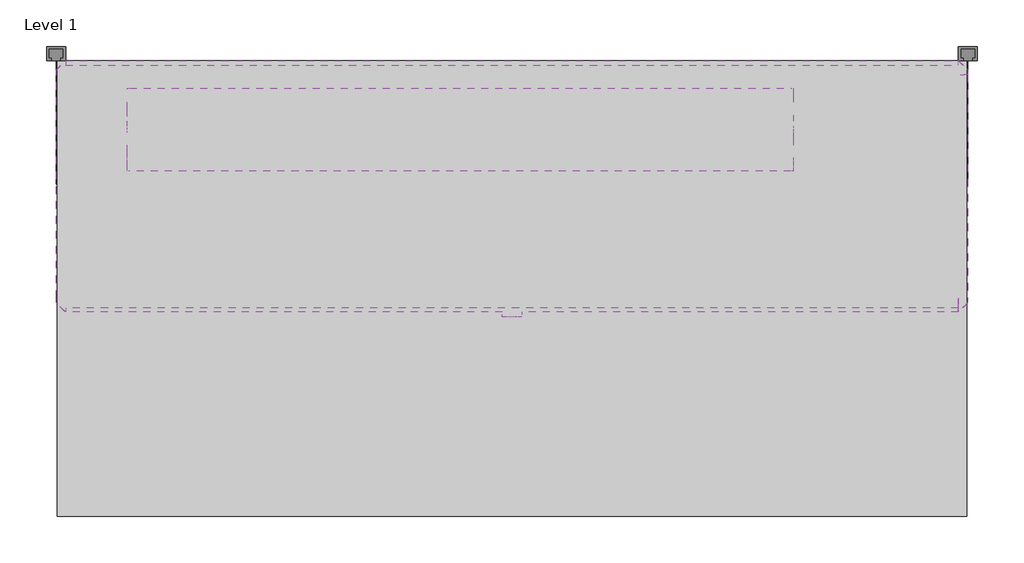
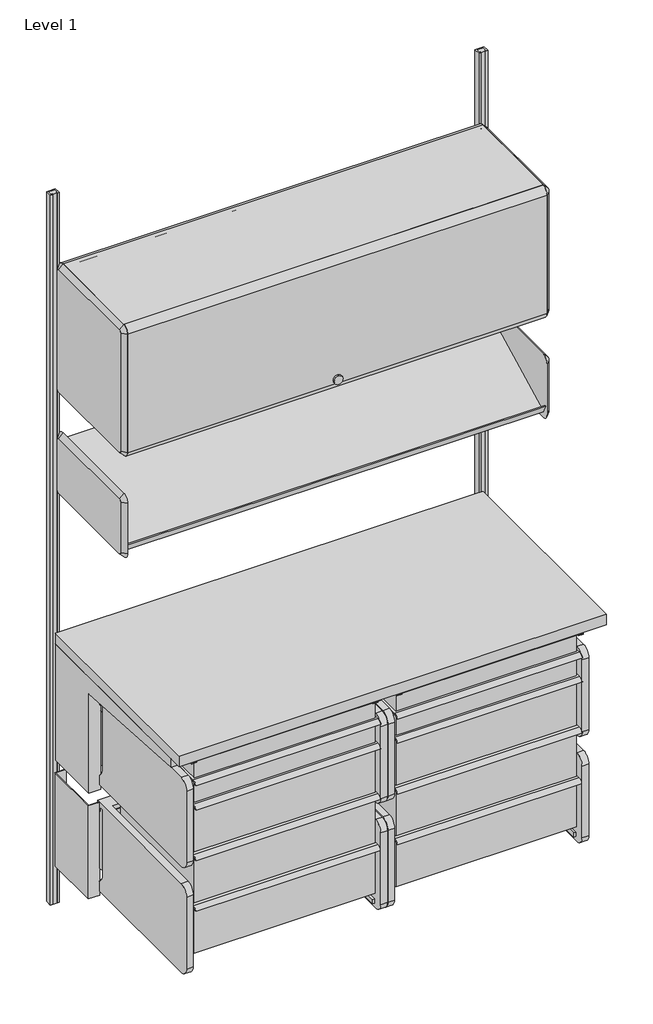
# One storey: 21 furniture elements, 1 light fixture.
"""IFC4 building model written with IfcOpenShell, lengths in millimetres."""

from ifc_helpers import new_model, si_unit, origin, place, context, project, spatial, transform, mapped, element, save
from components import furniture_30ac351e, furniture_de886b3f, furniture_439dfb7c, furniture_33cd207f, furniture_56be9a9d, furniture_c9df3ccb, furniture_0ce6bd9a, furniture_ea425779, a_3_959e08d9, a_3_3943aac6, b_6_f3207868, b_6_2be62e06, b_6_bdab6ed6, light_fixture_d29e1486

model = new_model("IFC4")

# Units and contexts
model_context = context("Model", 3, world=origin())
ifc_project = project(units=[si_unit("LENGTHUNIT", "METRE", prefix="MILLI")], contexts=[model_context])

# Site, building, storey
site = spatial("IfcSite", under=ifc_project)
building = spatial("IfcBuilding", under=site)
storey = spatial("IfcBuildingStorey", under=building, Name="Level 1", Elevation=0.0)

# Furniture
placement = place(None, origin())
furniture_shape = furniture_30ac351e(model_context)
element("IfcFurniture", 1, ObjectType="HermanMiller_CoStruc_CO205_CFrame : 10\"H x 17\"D x 22\"W", at=placement, inside=storey, context=model_context, shape_type="MappedRepresentation", body=[
    mapped(furniture_shape, transform((222.5622951, -255.7213997, 0.0), x_axis=(1.0, 0.0, 0.0), y_axis=(0.0, 1.0, 0.0), z_axis=(0.0, 0.0, 1.0))),
])
element("IfcFurniture", 2, ObjectType="HermanMiller_CoStruc_CO205_CFrame : 10\"H x 17\"D x 22\"W", at=placement, inside=storey, context=model_context, shape_type="MappedRepresentation", body=[
    mapped(furniture_shape, transform((795.6624951, -255.7213997, 0.0), x_axis=(1.0, 0.0, 0.0), y_axis=(0.0, 1.0, 0.0), z_axis=(0.0, 0.0, 1.0))),
])
furniture_2_shape = furniture_de886b3f(model_context)
element("IfcFurniture", 3, ObjectType="HermanMiller_CoStruc_C2141_Heavy-DutyWorkSurface : 24\"D x 48\"W Lam", at=placement, inside=storey, context=model_context, shape_type="MappedRepresentation", body=[
    mapped(furniture_2_shape, transform((304.8, -196.85, 0.0), x_axis=(1.0, 0.0, 0.0), y_axis=(0.0, 1.0, 0.0), z_axis=(0.0, 0.0, 1.0))),
])
furniture_3_shape = furniture_439dfb7c(model_context)
element("IfcFurniture", 4, ObjectType="HermanMiller_ActionOffice_A3220_B-StyleStorageDisplay : Display 13\"D x 48\"W", at=placement, inside=storey, context=model_context, shape_type="MappedRepresentation", body=[
    mapped(furniture_3_shape, transform((733.5420045, -200.025, 0.0), x_axis=(1.0, 0.0, 0.0), y_axis=(0.0, 1.0, 0.0), z_axis=(0.0, 0.0, 1.0))),
])
furniture_4_shape = furniture_33cd207f(model_context)
element("IfcFurniture", 5, ObjectType="HermanMiller_ActionOffice_A3352_B-StyleFlipperDoorUnit : 15 1/2\"H x 13\"D x 48\"W", at=placement, inside=storey, context=model_context, shape_type="MappedRepresentation", body=[
    mapped(furniture_4_shape, transform((609.6, -200.025, 0.0), x_axis=(1.0, 0.0, 0.0), y_axis=(0.0, 1.0, 0.0), z_axis=(0.0, 0.0, 1.0))),
])
furniture_5_shape = furniture_56be9a9d(model_context)
element("IfcFurniture", 6, ObjectType="HermanMiller_CoStruc_CO205_CFrame : 10\"H x 17\"D x 22\"W", at=placement, inside=storey, context=model_context, shape_type="MappedRepresentation", body=[
    mapped(furniture_5_shape, transform((222.5622951, -255.7213997, 0.0), x_axis=(1.0, 0.0, 0.0), y_axis=(0.0, 1.0, 0.0), z_axis=(0.0, 0.0, 1.0))),
])
element("IfcFurniture", 7, ObjectType="HermanMiller_CoStruc_CO205_CFrame : 10\"H x 17\"D x 22\"W", at=placement, inside=storey, context=model_context, shape_type="MappedRepresentation", body=[
    mapped(furniture_5_shape, transform((795.6624951, -255.7213997, 0.0), x_axis=(1.0, 0.0, 0.0), y_axis=(0.0, 1.0, 0.0), z_axis=(0.0, 0.0, 1.0))),
])
furniture_6_shape = furniture_c9df3ccb(model_context)
element("IfcFurniture", 8, ObjectType="HermanMiller_CoStruc_C2192_CFrameSupport : 11\"H x 24\"D x 48\"W", at=placement, inside=storey, context=model_context, shape_type="MappedRepresentation", body=[
    mapped(furniture_6_shape, transform((609.6, 107.15625, 0.0), x_axis=(1.0, 0.0, 0.0), y_axis=(0.0, 1.0, 0.0), z_axis=(0.0, 0.0, 1.0))),
])
furniture_7_shape = furniture_0ce6bd9a(model_context)
element("IfcFurniture", 9, ObjectType="HermanMiller_CoStruc_C2140W_WorkSurfaceSupport_ComponentAdaptor : 14\"H x 24\"D x 48\"W", at=placement, inside=storey, context=model_context, shape_type="MappedRepresentation", body=[
    mapped(furniture_7_shape, transform((609.6, -196.85, 0.0), x_axis=(1.0, 0.0, 0.0), y_axis=(0.0, 1.0, 0.0), z_axis=(0.0, 0.0, 1.0))),
])
furniture_8_shape = furniture_ea425779(model_context)
element("IfcFurniture", 10, ObjectType="HermanMiller_ActionOffice_AO213_WallStrip : 84\"H", at=placement, inside=storey, context=model_context, shape_type="MappedRepresentation", body=[
    mapped(furniture_8_shape, transform((1219.2474574, 0.0, 0.0), x_axis=(1.0, 0.0, 0.0), y_axis=(0.0, 1.0, 0.0), z_axis=(0.0, 0.0, 1.0))),
])
element("IfcFurniture", 11, ObjectType="HermanMiller_ActionOffice_AO213_WallStrip : 84\"H", at=placement, inside=storey, context=model_context, shape_type="MappedRepresentation", body=[
    mapped(furniture_8_shape, transform((0.0, 0.0, 0.0), x_axis=(1.0, 0.0, 0.0), y_axis=(0.0, 1.0, 0.0), z_axis=(0.0, 0.0, 1.0))),
])
a_3_shape = a_3_959e08d9(model_context)
element("IfcFurniture", 12, ObjectType="HermanMiller_CoStruc_CO207_Drawer : A - 3", at=placement, inside=storey, context=model_context, shape_type="MappedRepresentation", body=[
    mapped(a_3_shape, transform((322.1824517, -417.5379, 0.0), x_axis=(1.0, 0.0, 0.0), y_axis=(0.0, 1.0, 0.0), z_axis=(0.0, 0.0, 1.0))),
])
element("IfcFurniture", 13, ObjectType="HermanMiller_CoStruc_CO207_Drawer : A - 3", at=placement, inside=storey, context=model_context, shape_type="MappedRepresentation", body=[
    mapped(a_3_shape, transform((895.2826517, -417.5379, 0.0), x_axis=(1.0, 0.0, 0.0), y_axis=(0.0, 1.0, 0.0), z_axis=(0.0, 0.0, 1.0))),
])
a_3_2_shape = a_3_3943aac6(model_context)
element("IfcFurniture", 14, ObjectType="HermanMiller_CoStruc_CO207_Drawer : A - 3", at=placement, inside=storey, context=model_context, shape_type="MappedRepresentation", body=[
    mapped(a_3_2_shape, transform((322.1824517, -417.5379, 0.0), x_axis=(1.0, 0.0, 0.0), y_axis=(0.0, 1.0, 0.0), z_axis=(0.0, 0.0, 1.0))),
])
element("IfcFurniture", 15, ObjectType="HermanMiller_CoStruc_CO207_Drawer : A - 3", at=placement, inside=storey, context=model_context, shape_type="MappedRepresentation", body=[
    mapped(a_3_2_shape, transform((895.2826517, -417.5379, 0.0), x_axis=(1.0, 0.0, 0.0), y_axis=(0.0, 1.0, 0.0), z_axis=(0.0, 0.0, 1.0))),
])
b_6_shape = b_6_f3207868(model_context)
element("IfcFurniture", 16, ObjectType="HermanMiller_CoStruc_CO207_Drawer : B - 6", at=placement, inside=storey, context=model_context, shape_type="MappedRepresentation", body=[
    mapped(b_6_shape, transform((322.1824517, -417.5379, 0.0), x_axis=(1.0, 0.0, 0.0), y_axis=(0.0, 1.0, 0.0), z_axis=(0.0, 0.0, 1.0))),
])
element("IfcFurniture", 17, ObjectType="HermanMiller_CoStruc_CO207_Drawer : B - 6", at=placement, inside=storey, context=model_context, shape_type="MappedRepresentation", body=[
    mapped(b_6_shape, transform((895.2826517, -417.5379, 0.0), x_axis=(1.0, 0.0, 0.0), y_axis=(0.0, 1.0, 0.0), z_axis=(0.0, 0.0, 1.0))),
])
b_6_2_shape = b_6_2be62e06(model_context)
element("IfcFurniture", 18, ObjectType="HermanMiller_CoStruc_CO207_Drawer : B - 6", at=placement, inside=storey, context=model_context, shape_type="MappedRepresentation", body=[
    mapped(b_6_2_shape, transform((322.1824517, -417.5379, 0.0), x_axis=(1.0, 0.0, 0.0), y_axis=(0.0, 1.0, 0.0), z_axis=(0.0, 0.0, 1.0))),
])
element("IfcFurniture", 19, ObjectType="HermanMiller_CoStruc_CO207_Drawer : B - 6", at=placement, inside=storey, context=model_context, shape_type="MappedRepresentation", body=[
    mapped(b_6_2_shape, transform((895.2826517, -417.5379, 0.0), x_axis=(1.0, 0.0, 0.0), y_axis=(0.0, 1.0, 0.0), z_axis=(0.0, 0.0, 1.0))),
])
b_6_3_shape = b_6_bdab6ed6(model_context)
element("IfcFurniture", 20, ObjectType="HermanMiller_CoStruc_CO207_Drawer : B - 6", at=placement, inside=storey, context=model_context, shape_type="MappedRepresentation", body=[
    mapped(b_6_3_shape, transform((322.1824517, -417.5379, 0.0), x_axis=(1.0, 0.0, 0.0), y_axis=(0.0, 1.0, 0.0), z_axis=(0.0, 0.0, 1.0))),
])
element("IfcFurniture", 21, ObjectType="HermanMiller_CoStruc_CO207_Drawer : B - 6", at=placement, inside=storey, context=model_context, shape_type="MappedRepresentation", body=[
    mapped(b_6_3_shape, transform((895.2826517, -417.5379, 0.0), x_axis=(1.0, 0.0, 0.0), y_axis=(0.0, 1.0, 0.0), z_axis=(0.0, 0.0, 1.0))),
])

# Light fixture
light_fixture_shape = light_fixture_d29e1486(model_context)
element("IfcLightFixture", 22, ObjectType="HermanMiller_SupplementalProducts_G6136_UtilityTaskLight : AO Etho Canvas 42W", at=placement, inside=storey, context=model_context, shape_type="MappedRepresentation", body=[
    mapped(light_fixture_shape, transform((540.39262, -111.125, 0.0), x_axis=(1.0, 0.0, 0.0), y_axis=(0.0, 1.0, 0.0), z_axis=(0.0, 0.0, 1.0))),
])

save(model, "model.ifc")
